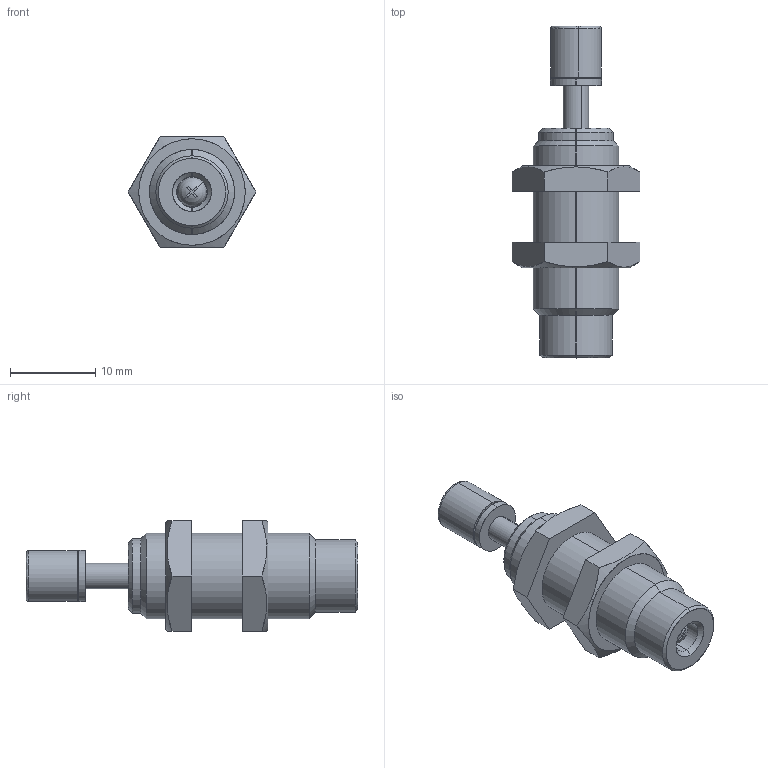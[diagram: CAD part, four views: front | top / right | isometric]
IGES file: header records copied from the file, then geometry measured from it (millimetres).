
Start section: SolidWorks IGES file using analytic representation for surfaces
Bounding box: 15.01 x 39 x 13 mm (x, y, z)
Surface area: 1858.9 mm2 (no closed solid volume)
Topology: 0 solids, 0 shells, 71 faces, 1004 edges, 1004 vertices
Faces by surface type: revolution 38, bspline 33
